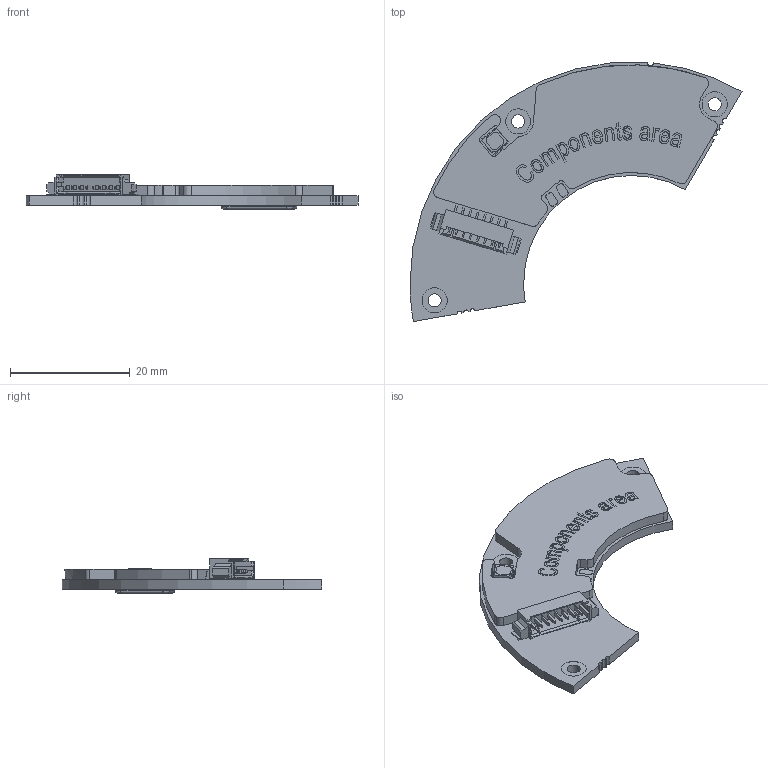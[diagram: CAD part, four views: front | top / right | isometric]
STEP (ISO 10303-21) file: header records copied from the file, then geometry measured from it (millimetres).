
FILE_DESCRIPTION (( 'STEP AP214' ), '1' );
FILE_NAME ('MB053xxxxxxENxxx.STEP', '2026-06-01T08:55:14', ( '' ), ( '' ), 'SwSTEP 2.0', 'SolidWorks 2024', '' );
FILE_SCHEMA (( 'AUTOMOTIVE_DESIGN' ));
Length unit declared in the file: millimetre
Products named in the file (1): MB053xxxxxxENxxx
Bounding box: 55.5 x 43.32 x 5.7 mm (x, y, z)
Volume: 3346.2 mm3; surface area: 3600.3 mm2
Topology: 4 solids, 4 shells, 733 faces, 2037 edges, 1336 vertices
Faces by surface type: plane 470, bspline 139, cylinder 119, torus 5
Entity records: 37682 total; most frequent: CARTESIAN_POINT 11584, ORIENTED_EDGE 4074, DIRECTION 3196, EDGE_CURVE 2037, LINE 1512, VECTOR 1512, VERTEX_POINT 1336, AXIS2_PLACEMENT_3D 842
